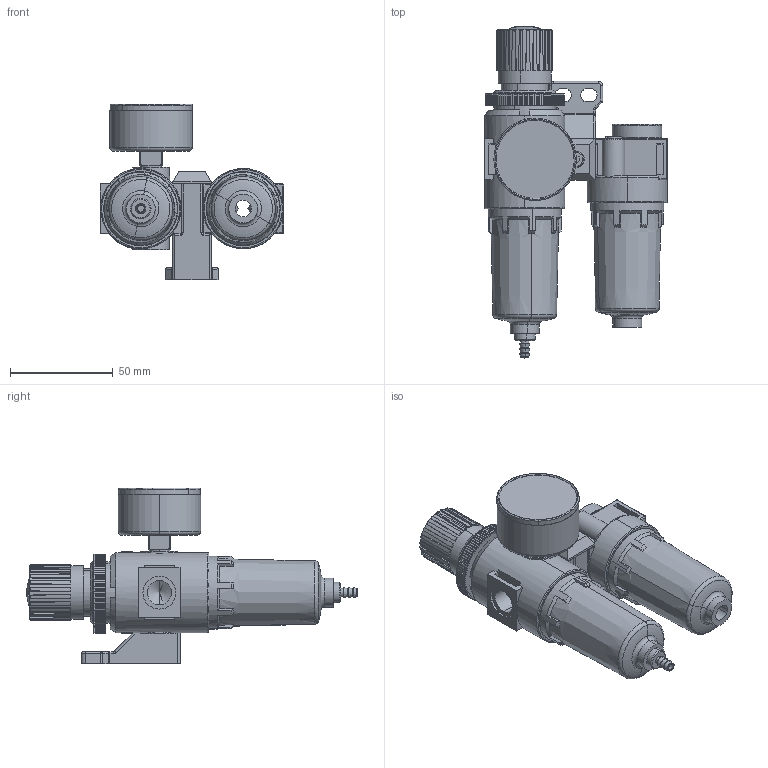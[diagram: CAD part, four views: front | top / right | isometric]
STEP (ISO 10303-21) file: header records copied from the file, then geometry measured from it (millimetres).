
FILE_DESCRIPTION (( 'STEP AP214' ), '1' );
FILE_NAME ('TM000020_mini_FR+L_G1-4_www.kpm.it.STEP', '2019-05-01T14:09:20', ( '' ), ( '' ), 'SwSTEP 2.0', 'SolidWorks 2018', '' );
FILE_SCHEMA (( 'AUTOMOTIVE_DESIGN' ));
Length unit declared in the file: millimetre
Products named in the file (18): TM000019 FR mini da G1-4; staffa x serie TM G1-4; TM000020-L mini L da G1-4; TM000021-vaso; TM000021-pomello G1-4 black; Brugola TEI M4x12_INOX 304; MANOMETRO D 40.iam; TM000021-vaso_con scarico; TM000020-corpo L G1-4; MANOMETRO D 40; TM000021-cupola G1-4; TM000020_mini_FR+L_G1-4_www.kpm.it; vetro ø40; TM000021-ghiera G1-4; TM000021-filtro sinter G1-4; MANOMETRO KPM 40 .ipt; TM000021-corpo G1-4
Assembly tree (17 placements, depth 4):
  TM000020_mini_FR+L_G1-4_www.kpm.it
    TM000019 FR mini da G1-4
      TM000021-corpo G1-4
      TM000021-vaso_con scarico
      TM000021-cupola G1-4
      TM000021-pomello G1-4 black
      TM000021-ghiera G1-4
      TM000021-filtro sinter G1-4
    TM000020-L mini L da G1-4
      TM000020-corpo L G1-4
      TM000021-vaso
    staffa x serie TM G1-4
      staffa x serie TM G1-4
      Brugola TEI M4x12_INOX 304
    MANOMETRO D 40
      MANOMETRO D 40.iam
        MANOMETRO KPM 40 .ipt
      vetro ø40
Bounding box: 89 x 161.34 x 85.41 mm (x, y, z)
Volume: 127609.4 mm3; surface area: 95685.4 mm2
Topology: 22 solids, 22 shells, 1872 faces, 5019 edges, 3258 vertices
Faces by surface type: plane 841, bspline 443, cylinder 385, cone 138, torus 57, sphere 8
Entity records: 71196 total; most frequent: CARTESIAN_POINT 22353, ORIENTED_EDGE 9974, DIRECTION 7599, EDGE_CURVE 4987, VERTEX_POINT 3258, AXIS2_PLACEMENT_3D 2567, LINE 2465, VECTOR 2465
